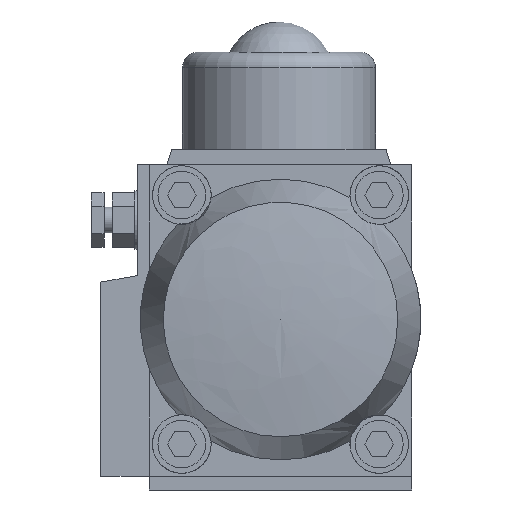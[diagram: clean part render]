
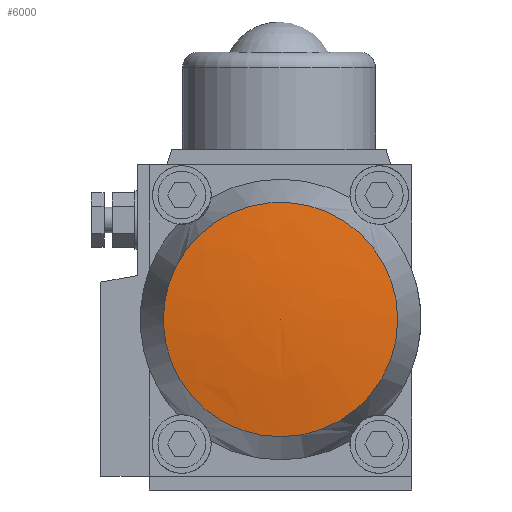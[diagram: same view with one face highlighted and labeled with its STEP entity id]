
A CAD part, front view. The second image highlights one B-rep face of the part: STEP entity #6000.
In plain terms, the highlighted free-form (B-spline) face has degree [2, 2] with [3, 9] control points.
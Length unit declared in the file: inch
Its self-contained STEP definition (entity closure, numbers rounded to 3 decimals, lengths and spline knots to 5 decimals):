
#5954=CARTESIAN_POINT('',(8.00696,-5.63033,1.21468));
#5955=CARTESIAN_POINT('',(8.00696,-5.62783,0.73691));
#5956=CARTESIAN_POINT('',(8.00696,-5.55533,0.26468));
#5957=CARTESIAN_POINT('',(8.00696,-5.63033,1.21468));
#5958=CARTESIAN_POINT('',(8.48472,-5.62783,0.73691));
#5959=CARTESIAN_POINT('',(8.95696,-5.55533,0.26468));
#5960=CARTESIAN_POINT('',(8.00696,-5.63033,1.21468));
#5961=CARTESIAN_POINT('',(8.48472,-5.62783,1.21468));
#5962=CARTESIAN_POINT('',(8.95696,-5.55533,1.21468));
#5963=CARTESIAN_POINT('',(8.00696,-5.63033,1.21468));
#5964=CARTESIAN_POINT('',(8.48472,-5.62783,1.69244));
#5965=CARTESIAN_POINT('',(8.95696,-5.55533,2.16468));
#5966=CARTESIAN_POINT('',(8.00696,-5.63033,1.21468));
#5967=CARTESIAN_POINT('',(8.00696,-5.62783,1.69244));
#5968=CARTESIAN_POINT('',(8.00696,-5.55533,2.16468));
#5969=CARTESIAN_POINT('',(8.00696,-5.63033,1.21468));
#5970=CARTESIAN_POINT('',(7.5292,-5.62783,1.69244));
#5971=CARTESIAN_POINT('',(7.05696,-5.55533,2.16468));
#5972=CARTESIAN_POINT('',(8.00696,-5.63033,1.21468));
#5973=CARTESIAN_POINT('',(7.5292,-5.62783,1.21468));
#5974=CARTESIAN_POINT('',(7.05696,-5.55533,1.21468));
#5975=CARTESIAN_POINT('',(8.00696,-5.63033,1.21468));
#5976=CARTESIAN_POINT('',(7.5292,-5.62783,0.73691));
#5977=CARTESIAN_POINT('',(7.05696,-5.55533,0.26468));
#5978=CARTESIAN_POINT('',(8.00696,-5.63033,1.21468));
#5979=CARTESIAN_POINT('',(8.00696,-5.62783,0.73691));
#5980=CARTESIAN_POINT('',(8.00696,-5.55533,0.26468));
#5988=(BOUNDED_SURFACE()B_SPLINE_SURFACE(2,2,((#5954,#5957,#5960,#5963,#5966,#5969,#5972,#5975,#5978),(#5955,#5958,#5961,#5964,#5967,#5970,#5973,#5976,#5979),(#5956,#5959,#5962,#5965,#5968,#5971,#5974,#5977,#5980)),.UNSPECIFIED.,.F.,.T.,.U.)B_SPLINE_SURFACE_WITH_KNOTS((3,3),(3,2,2,2,3),(-1.56556,-1.41847),(0.0,1.5708,3.14159,4.71239,6.28319),.UNSPECIFIED.)GEOMETRIC_REPRESENTATION_ITEM()RATIONAL_B_SPLINE_SURFACE(((1.0,0.707,1.0,0.707,1.0,0.707,1.0,0.707,1.0),(0.997,0.705,0.997,0.705,0.997,0.705,0.997,0.705,0.997),(1.0,0.707,1.0,0.707,1.0,0.707,1.0,0.707,1.0)))REPRESENTATION_ITEM('')SURFACE());
#5989=CARTESIAN_POINT('',(8.95696,-5.55533,1.21468));
#5990=VERTEX_POINT('',#5989);
#5991=CARTESIAN_POINT('',(8.00696,-5.55533,1.21468));
#5992=DIRECTION('',(0.0,-1.0,0.0));
#5993=DIRECTION('',(1.0,0.0,0.0));
#5994=AXIS2_PLACEMENT_3D('',#5991,#5992,#5993);
#5995=CIRCLE('',#5994,0.95);
#5996=EDGE_CURVE('',#5990,#5990,#5995,.T.);
#5997=ORIENTED_EDGE('',*,*,#5996,.T.);
#5998=EDGE_LOOP('',(#5997));
#5999=FACE_OUTER_BOUND('',#5998,.T.);
#6000=ADVANCED_FACE('',(#5999),#5988,.T.);
